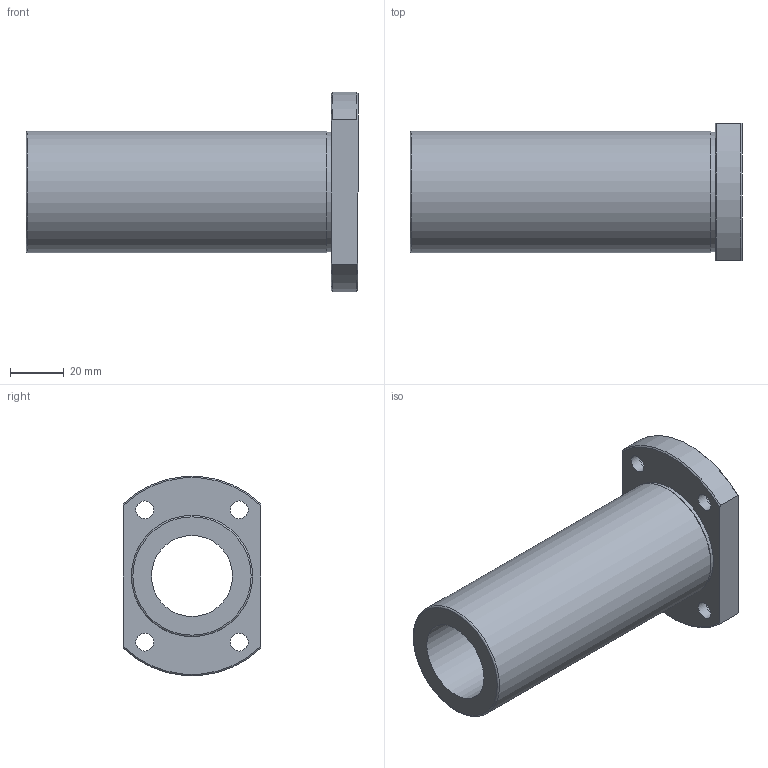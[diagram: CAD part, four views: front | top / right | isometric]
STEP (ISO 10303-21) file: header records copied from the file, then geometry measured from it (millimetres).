
FILE_DESCRIPTION(('STEP AP203'),'1');
FILE_NAME('//192.168.1.1/share/s-4 技術開発/s-4-4_CAD/s-4-4-3_見直し済み/002 修正済み/NFEO-VL/NFEO-VL_TOP/NFEO-30VLUU.step','2022-03-07T05:14:03',(' '),(' '),'Spatial InterOp 3D',' ',' ');
FILE_SCHEMA(('CONFIG_CONTROL_DESIGN'));
Length unit declared in the file: millimetre
Products named in the file (1): 1
Bounding box: 123 x 51 x 73.74 mm (x, y, z)
Volume: 124308 mm3; surface area: 36120.3 mm2
Topology: 1 solids, 1 shells, 28 faces, 59 edges, 39 vertices
Faces by surface type: cylinder 13, plane 10, cone 4, torus 1
Full cylindrical faces by diameter (mm): 6.6 x4, 11 x4, 30 x1, 44.4 x1, 45 x1
Entity records: 778 total; most frequent: CARTESIAN_POINT 139, DIRECTION 128, ORIENTED_EDGE 94, AXIS2_PLACEMENT_3D 60, EDGE_LOOP 56, EDGE_CURVE 47, FACE_OUTER_BOUND 40, VERTEX_POINT 39
